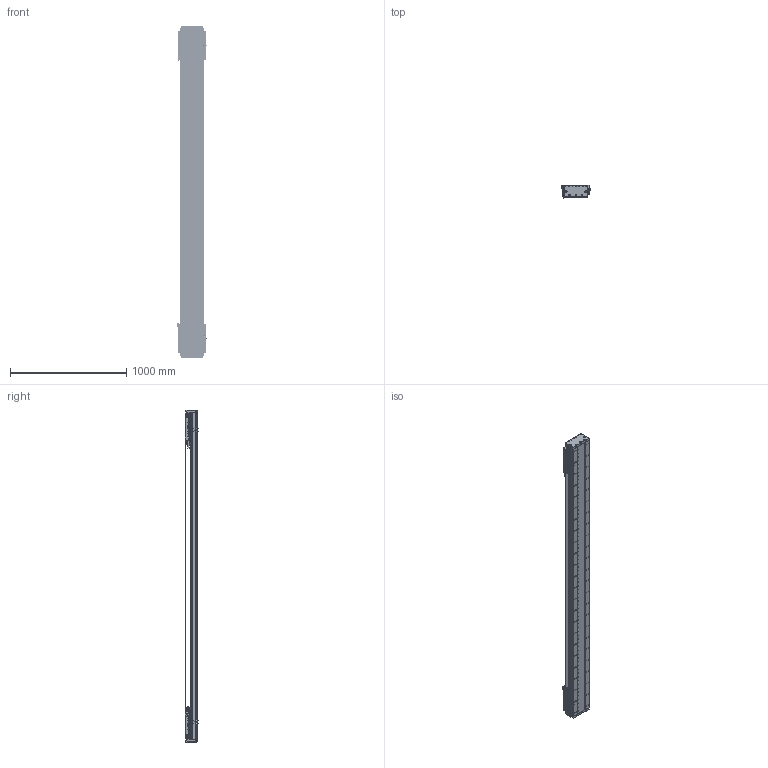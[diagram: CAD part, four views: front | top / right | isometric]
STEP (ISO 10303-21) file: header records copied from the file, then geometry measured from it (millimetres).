
FILE_DESCRIPTION (( 'STEP AP203' ), '1' );
FILE_NAME ('DA-C195-2-C3-T2240-C010-0.2 眻盄萇儂.STEP', '2025-08-15T00:47:46', ( '' ), ( '' ), 'SwSTEP 2.0', 'SolidWorks 2019', '' );
FILE_SCHEMA (( 'CONFIG_CONTROL_DESIGN' ));
Length unit declared in the file: millimetre
Products named in the file (19): IU-CU195-L-00 菁釱(L2820); DKW-KGZ-ZJ-00 中间光电开关支架; DA-C195-GD-DB-H-00 傷啣; IU-CU195-L 菁釱絳寢; MS200 棠掑喜S315-T240; PM-T45ㄗ侂狟ㄘ; DA-C195-2-C3-T2240-C010-0.2 眻盄萇儂; DA195詩湍嶺輸; DA195詩湍郪璃; DA195詩湍菜輸; 葩璃 DA95-GT-T-00; DKW168-HXJ-ZJ-00 笢潔滅袉砎蝶; LMT黍杅芛; CU195-C3賑輸-俋楷; DA95-HXJ-00 遣喳砎蝶; PM-Y65嫖萇羲壽郪璃; DA195詩湍裔啣; DKW-GYP-ZJ-00 笢潔嫖萇覜茼え; DA165-GYP-00 光电感应片(默认)
Assembly tree (37 placements, depth 3):
  DA-C195-2-C3-T2240-C010-0.2 眻盄萇儂
    DA195詩湍郪璃
      DA195詩湍菜輸  x2
      DA195詩湍裔啣
      DA195詩湍嶺輸  x2
      DA95-HXJ-00 遣喳砎蝶  x8
      DA-C195-GD-DB-H-00 傷啣  x2
    IU-CU195-L 菁釱絳寢
      IU-CU195-L-00 菁釱(L2820)
      葩璃 DA95-GT-T-00  x4
    LMT黍杅芛  x2
    MS200 棠掑喜S315-T240
    PM-T45ㄗ侂狟ㄘ  x4
    DA165-GYP-00 光电感应片(默认)  x2
    PM-Y65嫖萇羲壽郪璃
    DKW168-HXJ-ZJ-00 笢潔滅袉砎蝶
    DKW-GYP-ZJ-00 笢潔嫖萇覜茼え
    DKW-KGZ-ZJ-00 中间光电开关支架
    CU195-C3賑輸-俋楷  x2
Bounding box: 258.2 x 115.45 x 2860 mm (x, y, z)
Volume: 18227562.7 mm3; surface area: 5250584.8 mm2
Topology: 154 solids, 218 shells, 7001 faces, 18855 edges, 11765 vertices
Faces by surface type: cylinder 3394, plane 2555, cone 884, torus 88, sphere 72, bspline 8
Entity records: 155511 total; most frequent: CARTESIAN_POINT 42305, ORIENTED_EDGE 23726, DIRECTION 22504, EDGE_CURVE 11863, AXIS2_PLACEMENT_3D 8293, VERTEX_POINT 7690, LINE 5918, VECTOR 5918
